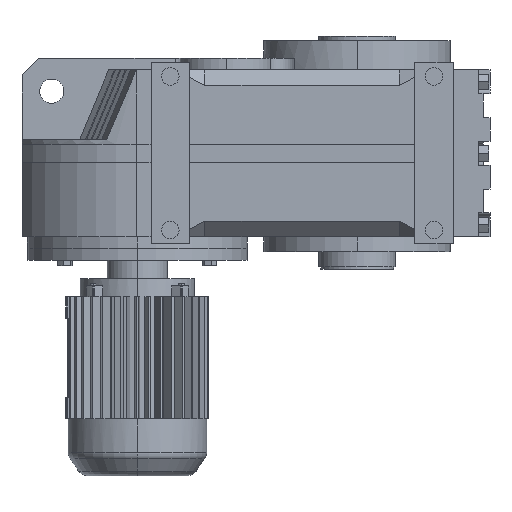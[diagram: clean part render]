
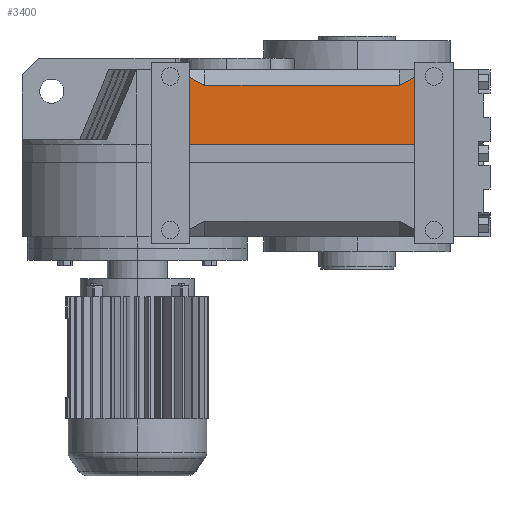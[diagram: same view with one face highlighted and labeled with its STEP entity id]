
A CAD part, left-side view. The second image highlights one B-rep face of the part: STEP entity #3400.
In plain terms, the highlighted planar face has unit normal (-1, 0, 0).
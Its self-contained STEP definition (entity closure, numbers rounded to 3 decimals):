
#40 = EDGE_CURVE('',#41,#43,#45,.T.);
#41 = VERTEX_POINT('',#42);
#42 = CARTESIAN_POINT('',(-128.4,-61.5,148.4));
#43 = VERTEX_POINT('',#44);
#44 = CARTESIAN_POINT('',(-128.4,-47.5,155.606));
#45 = SURFACE_CURVE('',#46,(#50,#62),.PCURVE_S1.);
#46 = LINE('',#47,#48);
#47 = CARTESIAN_POINT('',(-128.4,-260.95,45.737));
#48 = VECTOR('',#49,1.);
#49 = DIRECTION('',(0.,0.889,0.458));
#50 = PCURVE('',#51,#56);
#51 = PLANE('',#52);
#52 = AXIS2_PLACEMENT_3D('',#53,#54,#55);
#53 = CARTESIAN_POINT('',(-191.203,-47.5,92.803));
#54 = DIRECTION('',(-0.664,-0.342,0.664));
#55 = DIRECTION('',(0.707,0.,0.707)
  );
#56 = DEFINITIONAL_REPRESENTATION('',(#57),#61);
#57 = LINE('',#58,#59);
#58 = CARTESIAN_POINT('',(11.128,-227.149));
#59 = VECTOR('',#60,1.);
#60 = DIRECTION('',(0.324,0.946));
#61 = ( GEOMETRIC_REPRESENTATION_CONTEXT(2) 
PARAMETRIC_REPRESENTATION_CONTEXT() REPRESENTATION_CONTEXT('2D SPACE',''
  ) );
#62 = PCURVE('',#63,#68);
#63 = PLANE('',#64);
#64 = AXIS2_PLACEMENT_3D('',#65,#66,#67);
#65 = CARTESIAN_POINT('',(-128.4,-321.,162.4));
#66 = DIRECTION('',(1.,0.,0.));
#67 = DIRECTION('',(0.,0.,-1.));
#68 = DEFINITIONAL_REPRESENTATION('',(#69),#73);
#69 = LINE('',#70,#71);
#70 = CARTESIAN_POINT('',(116.663,60.05));
#71 = VECTOR('',#72,1.);
#72 = DIRECTION('',(-0.458,0.889));
#73 = ( GEOMETRIC_REPRESENTATION_CONTEXT(2) 
PARAMETRIC_REPRESENTATION_CONTEXT() REPRESENTATION_CONTEXT('2D SPACE',''
  ) );
#91 = PLANE('',#92);
#92 = AXIS2_PLACEMENT_3D('',#93,#94,#95);
#93 = CARTESIAN_POINT('',(-114.4,1.,162.4));
#94 = DIRECTION('',(-0.707,0.,0.707));
#95 = DIRECTION('',(0.707,0.,0.707));
#145 = PLANE('',#146);
#146 = AXIS2_PLACEMENT_3D('',#147,#148,#149);
#147 = CARTESIAN_POINT('',(-102.4,-47.5,4.));
#148 = DIRECTION('',(0.,-1.,0.));
#149 = DIRECTION('',(0.,0.,-1.));
#223 = PLANE('',#224);
#224 = AXIS2_PLACEMENT_3D('',#225,#226,#227);
#225 = CARTESIAN_POINT('',(-191.203,-252.5,92.803));
#226 = DIRECTION('',(-0.664,0.342,0.664));
#227 = DIRECTION('',(0.707,0.,0.707)
  );
#251 = PLANE('',#252);
#252 = AXIS2_PLACEMENT_3D('',#253,#254,#255);
#253 = CARTESIAN_POINT('',(-102.4,-252.5,4.));
#254 = DIRECTION('',(0.,1.,0.));
#255 = DIRECTION('',(-1.,0.,0.));
#3028 = EDGE_CURVE('',#3029,#41,#3031,.T.);
#3029 = VERTEX_POINT('',#3030);
#3030 = CARTESIAN_POINT('',(-128.4,-238.5,148.4));
#3031 = SURFACE_CURVE('',#3032,(#3036,#3043),.PCURVE_S1.);
#3032 = LINE('',#3033,#3034);
#3033 = CARTESIAN_POINT('',(-128.4,-47.5,148.4));
#3034 = VECTOR('',#3035,1.);
#3035 = DIRECTION('',(0.,1.,0.));
#3036 = PCURVE('',#91,#3037);
#3037 = DEFINITIONAL_REPRESENTATION('',(#3038),#3042);
#3038 = LINE('',#3039,#3040);
#3039 = CARTESIAN_POINT('',(-19.799,-48.5));
#3040 = VECTOR('',#3041,1.);
#3041 = DIRECTION('',(0.,1.));
#3042 = ( GEOMETRIC_REPRESENTATION_CONTEXT(2) 
PARAMETRIC_REPRESENTATION_CONTEXT() REPRESENTATION_CONTEXT('2D SPACE',''
  ) );
#3043 = PCURVE('',#63,#3044);
#3044 = DEFINITIONAL_REPRESENTATION('',(#3045),#3049);
#3045 = LINE('',#3046,#3047);
#3046 = CARTESIAN_POINT('',(14.,273.5));
#3047 = VECTOR('',#3048,1.);
#3048 = DIRECTION('',(0.,1.));
#3049 = ( GEOMETRIC_REPRESENTATION_CONTEXT(2) 
PARAMETRIC_REPRESENTATION_CONTEXT() REPRESENTATION_CONTEXT('2D SPACE',''
  ) );
#3190 = VERTEX_POINT('',#3191);
#3191 = CARTESIAN_POINT('',(-128.4,-47.5,94.75));
#3205 = PLANE('',#3206);
#3206 = AXIS2_PLACEMENT_3D('',#3207,#3208,#3209);
#3207 = CARTESIAN_POINT('',(-14.634,1.,94.75));
#3208 = DIRECTION('',(0.,0.,-1.));
#3209 = DIRECTION('',(-1.,0.,0.));
#3217 = EDGE_CURVE('',#43,#3190,#3218,.T.);
#3218 = SURFACE_CURVE('',#3219,(#3223,#3230),.PCURVE_S1.);
#3219 = LINE('',#3220,#3221);
#3220 = CARTESIAN_POINT('',(-128.4,-47.5,162.4));
#3221 = VECTOR('',#3222,1.);
#3222 = DIRECTION('',(0.,0.,-1.));
#3223 = PCURVE('',#145,#3224);
#3224 = DEFINITIONAL_REPRESENTATION('',(#3225),#3229);
#3225 = LINE('',#3226,#3227);
#3226 = CARTESIAN_POINT('',(-158.4,-26.));
#3227 = VECTOR('',#3228,1.);
#3228 = DIRECTION('',(1.,0.));
#3229 = ( GEOMETRIC_REPRESENTATION_CONTEXT(2) 
PARAMETRIC_REPRESENTATION_CONTEXT() REPRESENTATION_CONTEXT('2D SPACE',''
  ) );
#3230 = PCURVE('',#63,#3231);
#3231 = DEFINITIONAL_REPRESENTATION('',(#3232),#3236);
#3232 = LINE('',#3233,#3234);
#3233 = CARTESIAN_POINT('',(0.,273.5));
#3234 = VECTOR('',#3235,1.);
#3235 = DIRECTION('',(1.,0.));
#3236 = ( GEOMETRIC_REPRESENTATION_CONTEXT(2) 
PARAMETRIC_REPRESENTATION_CONTEXT() REPRESENTATION_CONTEXT('2D SPACE',''
  ) );
#3400 = ADVANCED_FACE('',(#3401),#63,.F.);
#3401 = FACE_BOUND('',#3402,.T.);
#3402 = EDGE_LOOP('',(#3403,#3428,#3449,#3450,#3451,#3452));
#3403 = ORIENTED_EDGE('',*,*,#3404,.T.);
#3404 = EDGE_CURVE('',#3405,#3407,#3409,.T.);
#3405 = VERTEX_POINT('',#3406);
#3406 = CARTESIAN_POINT('',(-128.4,-252.5,94.75));
#3407 = VERTEX_POINT('',#3408);
#3408 = CARTESIAN_POINT('',(-128.4,-252.5,155.606));
#3409 = SURFACE_CURVE('',#3410,(#3414,#3421),.PCURVE_S1.);
#3410 = LINE('',#3411,#3412);
#3411 = CARTESIAN_POINT('',(-128.4,-252.5,162.4));
#3412 = VECTOR('',#3413,1.);
#3413 = DIRECTION('',(0.,0.,1.));
#3414 = PCURVE('',#63,#3415);
#3415 = DEFINITIONAL_REPRESENTATION('',(#3416),#3420);
#3416 = LINE('',#3417,#3418);
#3417 = CARTESIAN_POINT('',(0.,68.5));
#3418 = VECTOR('',#3419,1.);
#3419 = DIRECTION('',(-1.,0.));
#3420 = ( GEOMETRIC_REPRESENTATION_CONTEXT(2) 
PARAMETRIC_REPRESENTATION_CONTEXT() REPRESENTATION_CONTEXT('2D SPACE',''
  ) );
#3421 = PCURVE('',#251,#3422);
#3422 = DEFINITIONAL_REPRESENTATION('',(#3423),#3427);
#3423 = LINE('',#3424,#3425);
#3424 = CARTESIAN_POINT('',(26.,158.4));
#3425 = VECTOR('',#3426,1.);
#3426 = DIRECTION('',(0.,1.));
#3427 = ( GEOMETRIC_REPRESENTATION_CONTEXT(2) 
PARAMETRIC_REPRESENTATION_CONTEXT() REPRESENTATION_CONTEXT('2D SPACE',''
  ) );
#3428 = ORIENTED_EDGE('',*,*,#3429,.T.);
#3429 = EDGE_CURVE('',#3407,#3029,#3430,.T.);
#3430 = SURFACE_CURVE('',#3431,(#3435,#3442),.PCURVE_S1.);
#3431 = LINE('',#3432,#3433);
#3432 = CARTESIAN_POINT('',(-128.4,-309.417,184.903));
#3433 = VECTOR('',#3434,1.);
#3434 = DIRECTION('',(0.,0.889,-0.458));
#3435 = PCURVE('',#63,#3436);
#3436 = DEFINITIONAL_REPRESENTATION('',(#3437),#3441);
#3437 = LINE('',#3438,#3439);
#3438 = CARTESIAN_POINT('',(-22.503,11.583));
#3439 = VECTOR('',#3440,1.);
#3440 = DIRECTION('',(0.458,0.889));
#3441 = ( GEOMETRIC_REPRESENTATION_CONTEXT(2) 
PARAMETRIC_REPRESENTATION_CONTEXT() REPRESENTATION_CONTEXT('2D SPACE',''
  ) );
#3442 = PCURVE('',#223,#3443);
#3443 = DEFINITIONAL_REPRESENTATION('',(#3444),#3448);
#3444 = LINE('',#3445,#3446);
#3445 = CARTESIAN_POINT('',(109.533,-60.57));
#3446 = VECTOR('',#3447,1.);
#3447 = DIRECTION('',(-0.324,0.946));
#3448 = ( GEOMETRIC_REPRESENTATION_CONTEXT(2) 
PARAMETRIC_REPRESENTATION_CONTEXT() REPRESENTATION_CONTEXT('2D SPACE',''
  ) );
#3449 = ORIENTED_EDGE('',*,*,#3028,.T.);
#3450 = ORIENTED_EDGE('',*,*,#40,.T.);
#3451 = ORIENTED_EDGE('',*,*,#3217,.T.);
#3452 = ORIENTED_EDGE('',*,*,#3453,.F.);
#3453 = EDGE_CURVE('',#3405,#3190,#3454,.T.);
#3454 = SURFACE_CURVE('',#3455,(#3459,#3466),.PCURVE_S1.);
#3455 = LINE('',#3456,#3457);
#3456 = CARTESIAN_POINT('',(-128.4,-321.,94.75));
#3457 = VECTOR('',#3458,1.);
#3458 = DIRECTION('',(0.,1.,0.));
#3459 = PCURVE('',#63,#3460);
#3460 = DEFINITIONAL_REPRESENTATION('',(#3461),#3465);
#3461 = LINE('',#3462,#3463);
#3462 = CARTESIAN_POINT('',(67.65,0.));
#3463 = VECTOR('',#3464,1.);
#3464 = DIRECTION('',(0.,1.));
#3465 = ( GEOMETRIC_REPRESENTATION_CONTEXT(2) 
PARAMETRIC_REPRESENTATION_CONTEXT() REPRESENTATION_CONTEXT('2D SPACE',''
  ) );
#3466 = PCURVE('',#3205,#3467);
#3467 = DEFINITIONAL_REPRESENTATION('',(#3468),#3472);
#3468 = LINE('',#3469,#3470);
#3469 = CARTESIAN_POINT('',(113.766,-322.));
#3470 = VECTOR('',#3471,1.);
#3471 = DIRECTION('',(0.,1.));
#3472 = ( GEOMETRIC_REPRESENTATION_CONTEXT(2) 
PARAMETRIC_REPRESENTATION_CONTEXT() REPRESENTATION_CONTEXT('2D SPACE',''
  ) );
